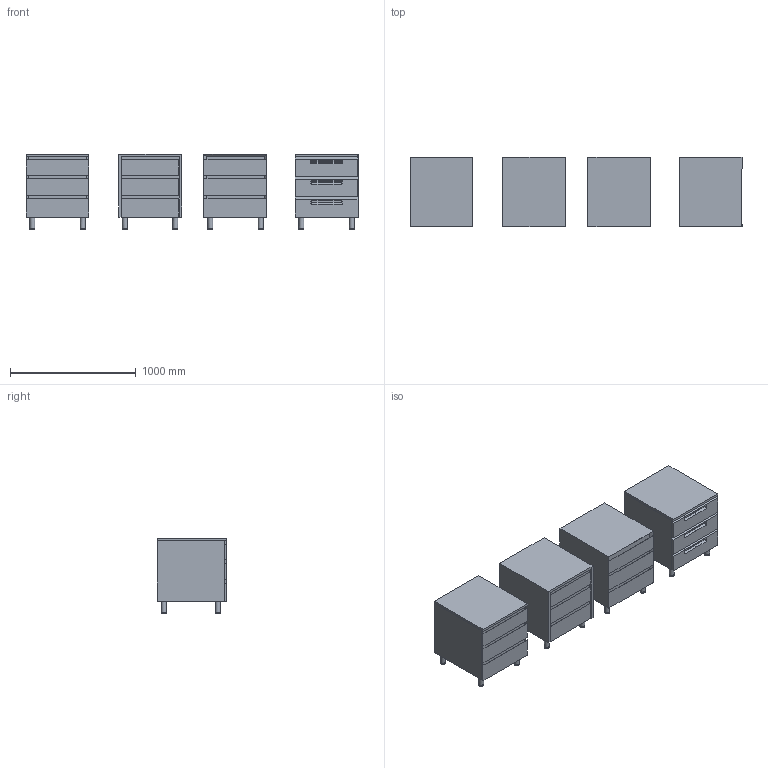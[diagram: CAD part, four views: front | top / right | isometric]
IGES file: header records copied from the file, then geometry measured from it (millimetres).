
Global section: file name: \\Archi-NAS\Comune\X GIOVANNI\MOBILI\COIFFEUSE\COIFFEUSE_cabinets_2.igs; native system: Rhinoceros ( Jan 17 2018 ); preprocessor: Trout Lake IGES 012 Jan 17 2018; date: 230608.091352; units: millimetre
Bounding box: 2639.92 x 550 x 600 mm (x, y, z)
Surface area: 20506881.4 mm2 (no closed solid volume)
Topology: 0 solids, 0 shells, 703 faces, 5866 edges, 5802 vertices
Faces by surface type: bspline 703
